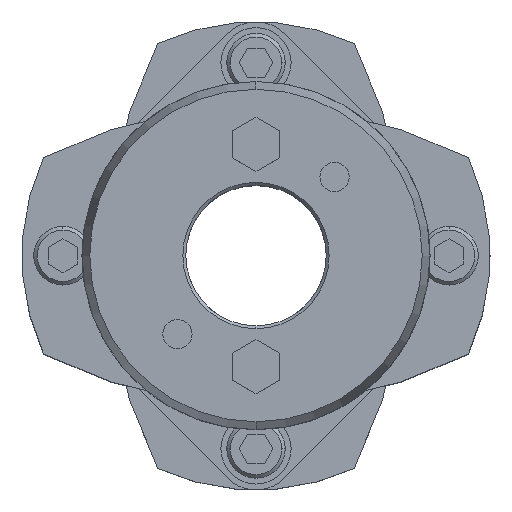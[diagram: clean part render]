
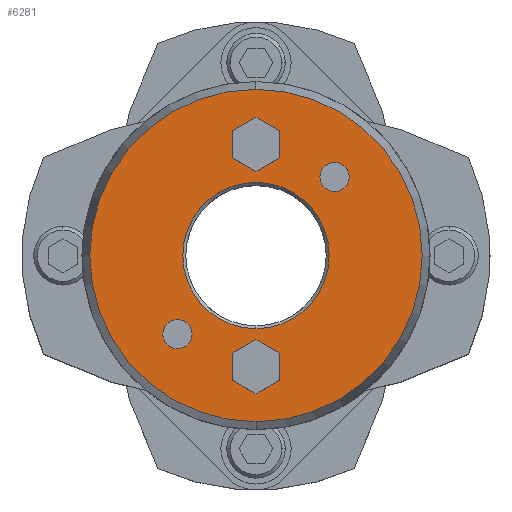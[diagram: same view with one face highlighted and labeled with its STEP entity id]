
A CAD part, top view. The second image highlights one B-rep face of the part: STEP entity #6281.
In plain terms, the highlighted planar face has unit normal (0, 0, 1).
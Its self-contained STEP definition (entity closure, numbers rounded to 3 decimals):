
#1677=CARTESIAN_POINT('',(0.,12.5,45.25));
#1678=VERTEX_POINT('',#1677);
#1694=CARTESIAN_POINT('',(0.,-12.5,45.25));
#1695=VERTEX_POINT('',#1694);
#1702=CARTESIAN_POINT('',(0.,0.,45.25));
#1703=DIRECTION('',(0.0,0.0,1.0));
#1704=DIRECTION('',(0.,1.0,0.0));
#1705=AXIS2_PLACEMENT_3D('',#1702,#1703,#1704);
#1706=CIRCLE('',#1705,12.5);
#1707=EDGE_CURVE('',#1695,#1678,#1706,.T.);
#1823=CARTESIAN_POINT('',(0.,-28.41,45.25));
#1824=VERTEX_POINT('',#1823);
#1833=CARTESIAN_POINT('',(0.,28.41,45.25));
#1834=VERTEX_POINT('',#1833);
#1835=CARTESIAN_POINT('',(0.,0.,45.25));
#1836=DIRECTION('',(0.0,0.0,-1.0));
#1837=DIRECTION('',(0.,-1.0,0.0));
#1838=AXIS2_PLACEMENT_3D('',#1835,#1836,#1837);
#1839=CIRCLE('',#1838,28.41);
#1840=EDGE_CURVE('',#1824,#1834,#1839,.T.);
#2009=CARTESIAN_POINT('',(13.435,15.935,45.25));
#2010=VERTEX_POINT('',#2009);
#2026=CARTESIAN_POINT('',(13.435,10.935,45.25));
#2027=VERTEX_POINT('',#2026);
#2034=CARTESIAN_POINT('',(13.435,13.435,45.25));
#2035=DIRECTION('',(0.0,0.0,-1.0));
#2036=DIRECTION('',(0.,1.0,0.0));
#2037=AXIS2_PLACEMENT_3D('',#2034,#2035,#2036);
#2038=CIRCLE('',#2037,2.5);
#2039=EDGE_CURVE('',#2010,#2027,#2038,.T.);
#2051=CARTESIAN_POINT('',(-13.435,-10.935,45.25));
#2052=VERTEX_POINT('',#2051);
#2068=CARTESIAN_POINT('',(-13.435,-15.935,45.25));
#2069=VERTEX_POINT('',#2068);
#2076=CARTESIAN_POINT('',(-13.435,-13.435,45.25));
#2077=DIRECTION('',(0.0,0.0,-1.0));
#2078=DIRECTION('',(0.,1.0,0.0));
#2079=AXIS2_PLACEMENT_3D('',#2076,#2077,#2078);
#2080=CIRCLE('',#2079,2.5);
#2081=EDGE_CURVE('',#2052,#2069,#2080,.T.);
#5407=CARTESIAN_POINT('',(0.,-14.381,45.25));
#5408=VERTEX_POINT('',#5407);
#5415=CARTESIAN_POINT('',(-4.,-16.691,45.25));
#5416=VERTEX_POINT('',#5415);
#5417=CARTESIAN_POINT('',(-4.,-16.691,45.25));
#5418=DIRECTION('',(0.866,0.5,0.0));
#5419=VECTOR('',#5418,4.619);
#5420=LINE('',#5417,#5419);
#5421=EDGE_CURVE('',#5416,#5408,#5420,.T.);
#5445=CARTESIAN_POINT('',(4.,-16.691,45.25));
#5446=VERTEX_POINT('',#5445);
#5453=CARTESIAN_POINT('',(0.,-14.381,45.25));
#5454=DIRECTION('',(0.866,-0.5,0.0));
#5455=VECTOR('',#5454,4.619);
#5456=LINE('',#5453,#5455);
#5457=EDGE_CURVE('',#5408,#5446,#5456,.T.);
#5476=CARTESIAN_POINT('',(4.,-21.309,45.25));
#5477=VERTEX_POINT('',#5476);
#5484=CARTESIAN_POINT('',(4.,-16.691,45.25));
#5485=DIRECTION('',(0.,-1.0,0.0));
#5486=VECTOR('',#5485,4.619);
#5487=LINE('',#5484,#5486);
#5488=EDGE_CURVE('',#5446,#5477,#5487,.T.);
#5507=CARTESIAN_POINT('',(0.,-23.619,45.25));
#5508=VERTEX_POINT('',#5507);
#5515=CARTESIAN_POINT('',(4.,-21.309,45.25));
#5516=DIRECTION('',(-0.866,-0.5,0.0));
#5517=VECTOR('',#5516,4.619);
#5518=LINE('',#5515,#5517);
#5519=EDGE_CURVE('',#5477,#5508,#5518,.T.);
#5538=CARTESIAN_POINT('',(-4.,-21.309,45.25));
#5539=VERTEX_POINT('',#5538);
#5546=CARTESIAN_POINT('',(0.,-23.619,45.25));
#5547=DIRECTION('',(-0.866,0.5,0.0));
#5548=VECTOR('',#5547,4.619);
#5549=LINE('',#5546,#5548);
#5550=EDGE_CURVE('',#5508,#5539,#5549,.T.);
#5568=CARTESIAN_POINT('',(-4.,-21.309,45.25));
#5569=DIRECTION('',(0.,1.0,0.0));
#5570=VECTOR('',#5569,4.619);
#5571=LINE('',#5568,#5570);
#5572=EDGE_CURVE('',#5539,#5416,#5571,.T.);
#5607=CARTESIAN_POINT('',(0.,23.619,45.25));
#5608=VERTEX_POINT('',#5607);
#5615=CARTESIAN_POINT('',(-4.,21.309,45.25));
#5616=VERTEX_POINT('',#5615);
#5617=CARTESIAN_POINT('',(-4.,21.309,45.25));
#5618=DIRECTION('',(0.866,0.5,0.0));
#5619=VECTOR('',#5618,4.619);
#5620=LINE('',#5617,#5619);
#5621=EDGE_CURVE('',#5616,#5608,#5620,.T.);
#5645=CARTESIAN_POINT('',(4.,21.309,45.25));
#5646=VERTEX_POINT('',#5645);
#5653=CARTESIAN_POINT('',(0.,23.619,45.25));
#5654=DIRECTION('',(0.866,-0.5,0.0));
#5655=VECTOR('',#5654,4.619);
#5656=LINE('',#5653,#5655);
#5657=EDGE_CURVE('',#5608,#5646,#5656,.T.);
#5676=CARTESIAN_POINT('',(4.,16.691,45.25));
#5677=VERTEX_POINT('',#5676);
#5684=CARTESIAN_POINT('',(4.,21.309,45.25));
#5685=DIRECTION('',(0.,-1.0,0.0));
#5686=VECTOR('',#5685,4.619);
#5687=LINE('',#5684,#5686);
#5688=EDGE_CURVE('',#5646,#5677,#5687,.T.);
#5707=CARTESIAN_POINT('',(0.,14.381,45.25));
#5708=VERTEX_POINT('',#5707);
#5715=CARTESIAN_POINT('',(4.,16.691,45.25));
#5716=DIRECTION('',(-0.866,-0.5,0.0));
#5717=VECTOR('',#5716,4.619);
#5718=LINE('',#5715,#5717);
#5719=EDGE_CURVE('',#5677,#5708,#5718,.T.);
#5738=CARTESIAN_POINT('',(-4.,16.691,45.25));
#5739=VERTEX_POINT('',#5738);
#5746=CARTESIAN_POINT('',(0.,14.381,45.25));
#5747=DIRECTION('',(-0.866,0.5,0.0));
#5748=VECTOR('',#5747,4.619);
#5749=LINE('',#5746,#5748);
#5750=EDGE_CURVE('',#5708,#5739,#5749,.T.);
#5768=CARTESIAN_POINT('',(-4.,16.691,45.25));
#5769=DIRECTION('',(0.,1.0,0.0));
#5770=VECTOR('',#5769,4.619);
#5771=LINE('',#5768,#5770);
#5772=EDGE_CURVE('',#5739,#5616,#5771,.T.);
#5798=CARTESIAN_POINT('',(-13.435,-13.435,45.25));
#5799=DIRECTION('',(0.0,0.0,-1.0));
#5800=DIRECTION('',(0.,1.0,0.0));
#5801=AXIS2_PLACEMENT_3D('',#5798,#5799,#5800);
#5802=CIRCLE('',#5801,2.5);
#5803=EDGE_CURVE('',#2069,#2052,#5802,.T.);
#5832=CARTESIAN_POINT('',(13.435,13.435,45.25));
#5833=DIRECTION('',(0.0,0.0,-1.0));
#5834=DIRECTION('',(0.,1.0,0.0));
#5835=AXIS2_PLACEMENT_3D('',#5832,#5833,#5834);
#5836=CIRCLE('',#5835,2.5);
#5837=EDGE_CURVE('',#2027,#2010,#5836,.T.);
#6228=CARTESIAN_POINT('',(0.,0.,45.25));
#6229=DIRECTION('',(0.0,0.0,-1.0));
#6230=DIRECTION('',(0.,-1.0,0.0));
#6231=AXIS2_PLACEMENT_3D('',#6228,#6229,#6230);
#6232=CIRCLE('',#6231,28.41);
#6233=EDGE_CURVE('',#1834,#1824,#6232,.T.);
#6238=CARTESIAN_POINT('',(0.,2.364,45.25));
#6239=DIRECTION('',(0.0,0.0,1.0));
#6240=DIRECTION('',(0.,1.0,0.0));
#6241=AXIS2_PLACEMENT_3D('',#6238,#6239,#6240);
#6242=PLANE('',#6241);
#6243=ORIENTED_EDGE('',*,*,#6233,.F.);
#6244=ORIENTED_EDGE('',*,*,#1840,.F.);
#6245=EDGE_LOOP('',(#6243,#6244));
#6246=FACE_OUTER_BOUND('',#6245,.T.);
#6247=ORIENTED_EDGE('',*,*,#5421,.T.);
#6248=ORIENTED_EDGE('',*,*,#5457,.T.);
#6249=ORIENTED_EDGE('',*,*,#5488,.T.);
#6250=ORIENTED_EDGE('',*,*,#5519,.T.);
#6251=ORIENTED_EDGE('',*,*,#5550,.T.);
#6252=ORIENTED_EDGE('',*,*,#5572,.T.);
#6253=EDGE_LOOP('',(#6247,#6248,#6249,#6250,#6251,#6252));
#6254=FACE_BOUND('',#6253,.T.);
#6255=ORIENTED_EDGE('',*,*,#5621,.T.);
#6256=ORIENTED_EDGE('',*,*,#5657,.T.);
#6257=ORIENTED_EDGE('',*,*,#5688,.T.);
#6258=ORIENTED_EDGE('',*,*,#5719,.T.);
#6259=ORIENTED_EDGE('',*,*,#5750,.T.);
#6260=ORIENTED_EDGE('',*,*,#5772,.T.);
#6261=EDGE_LOOP('',(#6255,#6256,#6257,#6258,#6259,#6260));
#6262=FACE_BOUND('',#6261,.T.);
#6263=ORIENTED_EDGE('',*,*,#2081,.T.);
#6264=ORIENTED_EDGE('',*,*,#5803,.T.);
#6265=EDGE_LOOP('',(#6263,#6264));
#6266=FACE_BOUND('',#6265,.T.);
#6267=ORIENTED_EDGE('',*,*,#2039,.T.);
#6268=ORIENTED_EDGE('',*,*,#5837,.T.);
#6269=EDGE_LOOP('',(#6267,#6268));
#6270=FACE_BOUND('',#6269,.T.);
#6271=ORIENTED_EDGE('',*,*,#1707,.F.);
#6272=CARTESIAN_POINT('',(0.,0.,45.25));
#6273=DIRECTION('',(0.0,0.0,1.0));
#6274=DIRECTION('',(0.,1.0,0.0));
#6275=AXIS2_PLACEMENT_3D('',#6272,#6273,#6274);
#6276=CIRCLE('',#6275,12.5);
#6277=EDGE_CURVE('',#1678,#1695,#6276,.T.);
#6278=ORIENTED_EDGE('',*,*,#6277,.F.);
#6279=EDGE_LOOP('',(#6271,#6278));
#6280=FACE_BOUND('',#6279,.T.);
#6281=ADVANCED_FACE('',(#6246,#6254,#6262,#6266,#6270,#6280),#6242,.T.);
